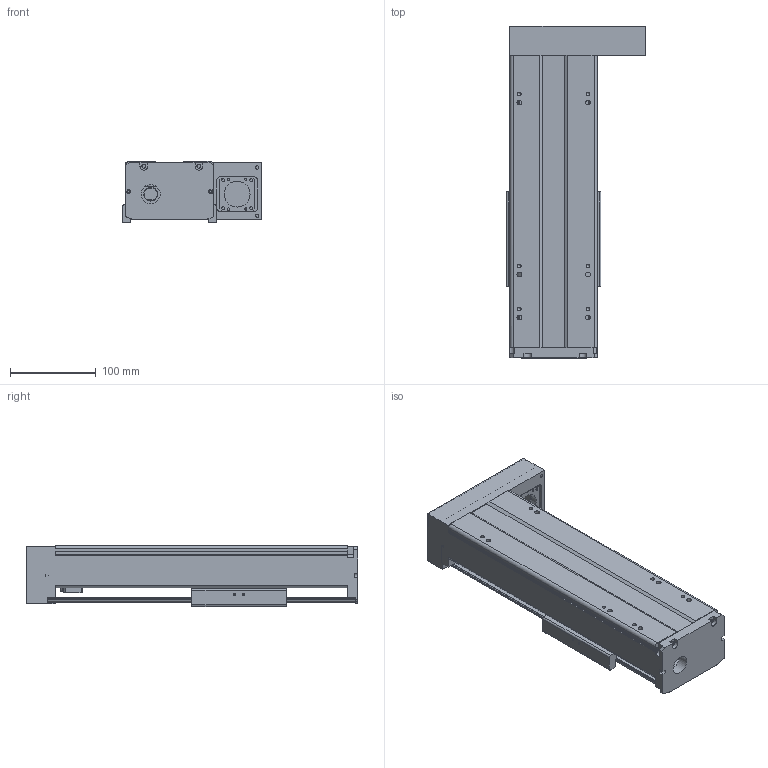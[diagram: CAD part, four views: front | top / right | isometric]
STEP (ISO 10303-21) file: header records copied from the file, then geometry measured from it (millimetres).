
FILE_DESCRIPTION(/* description */ (''),/* implementation_level */ '2;1');
FILE_NAME(/* name */ 'TKA100-FR-150-1_asm1.stp',/* time_stamp */ '2016-05-17T15:30:15+08:00',/* author */ (''),/* organization */ (''),/* preprocessor_version */ 'ST-DEVELOPER v15',/* originating_system */ 'SIEMENS PLM Software NX 8.5',/* authorisation */ '');
FILE_SCHEMA (('AUTOMOTIVE_DESIGN { 1 0 10303 214 3 1 1 1 }'));
Length unit declared in the file: millimetre
Products named in the file (3): 200-2; 200-1; TKA100-FR-150-1_asm1
Assembly tree (2 placements, depth 2):
  TKA100-FR-150-1_asm1
    200-1
    200-2
Bounding box: 162 x 386 x 71 mm (x, y, z)
Volume: 1055589 mm3; surface area: 363676.9 mm2
Topology: 2 solids, 16 shells, 778 faces, 2012 edges, 1311 vertices
Faces by surface type: plane 318, cylinder 289, cone 117, torus 28, bspline 26
Full cylindrical faces by diameter (mm): 2.5 x6, 2.6 x8, 3.3 x11, 3.4 x4, 3.8 x8, 4.2 x15, 4.3 x4, 4.5 x6, 5 x2, 5.5 x14, 6.6 x4, 8 x4, 9 x6, 10 x7, 11 x4, 12 x6, 15.3 x1, 16 x1, 22 x1, 24 x1, 28 x2, 30 x1, 33 x1
Entity records: 28494 total; most frequent: CARTESIAN_POINT 10466, DIRECTION 3695, ORIENTED_EDGE 3520, EDGE_CURVE 1760, AXIS2_PLACEMENT_3D 1451, VERTEX_POINT 1238, EDGE_LOOP 1053, LINE 793
